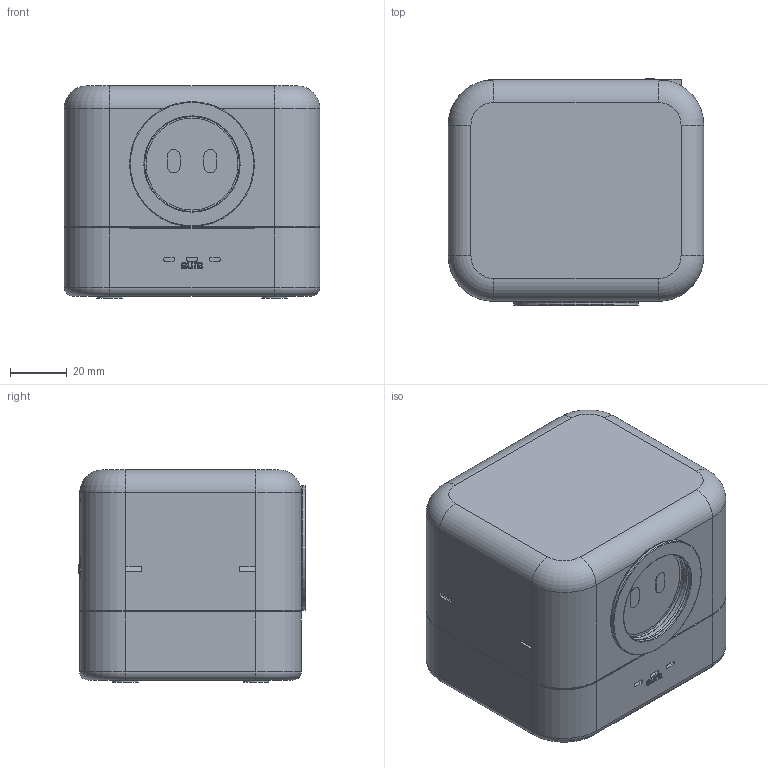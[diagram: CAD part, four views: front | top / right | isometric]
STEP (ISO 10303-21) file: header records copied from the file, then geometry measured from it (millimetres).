
FILE_DESCRIPTION(('Open CASCADE Model'),'2;1');
FILE_NAME('Open CASCADE Shape Model','2026-10-01T12:35:23',('Author'),( 'Open CASCADE'),'Open CASCADE STEP processor 7.8','Open CASCADE 7.8' ,'Unknown');
FILE_SCHEMA(('AUTOMOTIVE_DESIGN { 1 0 10303 214 1 1 1 1 }'));
Length unit declared in the file: millimetre
Products named in the file (97): AURA_R1_MAIN_ASSEMBLY; 01_Printable_parts; P01_Upper_shell; P02_Snap_base; P03_Face_bezel; P04_Adjustable_display_carrier; P05_Electronics_deck; P06_C3_snap_cap; P07_Amplifier_snap_cap; P08_Power_board_retainer; P09_Battery_cradle; P10_Touch_retaining_frame; P11_Speaker_retainer; P12_USB_inlet_carrier; P13_USB_capture_cap; 02_Purchased_modules; E01_GC9A01_breakout_provisional; E02_LCD_panel_reference; E03_ESP32C3_SuperMini_A33; E04_MAX98357_MD0860; E05_TTP223_MD0206_provisional; E06_3020_speaker_PAL36; E07_TP4056_MD0744; E08_MT3608_ML2060; E09_18650_holder_BA0039_provisional; E10_18650_cell_BA0199_provisional; E11_USBC_MD0840_provisional; E13_USBC_socket_provisional; E12_MTS202_BU0014_provisional; 03_Inserts_fasteners_pads; H00_Seam_anti_rattle_foam; H01_Bezel_adhesive; H04_LCD_edge_pad_-18_26.5; H04_LCD_edge_pad_-18_66.5; H04_LCD_edge_pad_18_26.5; H04_LCD_edge_pad_18_66.5; H05_LCD_perimeter_gasket; H07_P06_C3_snap_cap_pad_-1; H07_P06_C3_snap_cap_pad_1; H07_P07_Amplifier_snap_cap_pad_-1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
Assembly tree (96 placements, depth 3):
  AURA_R1_MAIN_ASSEMBLY
    01_Printable_parts
      P01_Upper_shell
      P02_Snap_base
      P03_Face_bezel
      P04_Adjustable_display_carrier
      P05_Electronics_deck
      P06_C3_snap_cap
      P07_Amplifier_snap_cap
      P08_Power_board_retainer
      P09_Battery_cradle
      P10_Touch_retaining_frame
      P11_Speaker_retainer
      P12_USB_inlet_carrier
      P13_USB_capture_cap
    02_Purchased_modules
      E01_GC9A01_breakout_provisional
      E02_LCD_panel_reference
      E03_ESP32C3_SuperMini_A33
      E04_MAX98357_MD0860
      E05_TTP223_MD0206_provisional
      E06_3020_speaker_PAL36
      E07_TP4056_MD0744
      E08_MT3608_ML2060
      E09_18650_holder_BA0039_provisional
      E10_18650_cell_BA0199_provisional
      E11_USBC_MD0840_provisional
      E13_USBC_socket_provisional
      E12_MTS202_BU0014_provisional
    03_Inserts_fasteners_pads
      H00_Seam_anti_rattle_foam
      H01_Bezel_adhesive
      H04_LCD_edge_pad_-18_26.5
      H04_LCD_edge_pad_-18_66.5
      H04_LCD_edge_pad_18_26.5
      H04_LCD_edge_pad_18_66.5
      H05_LCD_perimeter_gasket
      H07_P06_C3_snap_cap_pad_-1
      H07_P06_C3_snap_cap_pad_1
      H07_P07_Amplifier_snap_cap_pad_-1
      H07_P07_Amplifier_snap_cap_pad_1
      H08_Power_pad_-20_-1
      H08_Power_pad_-20_1
      H08_Power_pad_19_-1
      H08_Power_pad_19_1
      H09_Battery_retaining_strap
      H02_Speaker_gasket
      H06_USB_edge_pad_-34.5
      H06_USB_edge_pad_-13.5
      H03_Cell_contact_L
      H03_Cell_contact_R
      H95_Toggle_washer_provisional
      H96_Toggle_nut_provisional
      H10_Base_insert_1
      H20_Base_screw_1
      H10_Base_insert_2
      H20_Base_screw_2
      H10_Base_insert_3
      H20_Base_screw_3
      H10_Base_insert_4
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Bounding box: 90 x 80.2 x 74.7 mm (x, y, z)
Volume: 161329.9 mm3; surface area: 152044.6 mm2
Topology: 92 solids, 92 shells, 1986 faces, 5022 edges, 3327 vertices
Faces by surface type: plane 1416, cylinder 405, extrusion 148, torus 16, cone 1
Full cylindrical faces by diameter (mm): 2.96 x18, 3 x8, 3.1 x18, 3.2 x1, 3.4 x16, 4.4 x18, 5 x18, 6 x19, 6.2 x1, 6.4 x1, 6.6 x1, 7 x2, 7.6 x3, 8 x10, 9 x6, 9.2 x1, 9.4 x4, 18.6 x1, 26 x1, 32.4 x1, 33.4 x1, 34.2 x1, 34.4 x1, 35.2 x1, 37.8 x1, 43.6 x1, 44 x1
Entity records: 129317 total; most frequent: CARTESIAN_POINT 28339, DIRECTION 17218, VECTOR 10885, LINE 10737, ORIENTED_EDGE 10044, PCURVE 10044, DEFINITIONAL_REPRESENTATION 10044, EDGE_CURVE 5022
